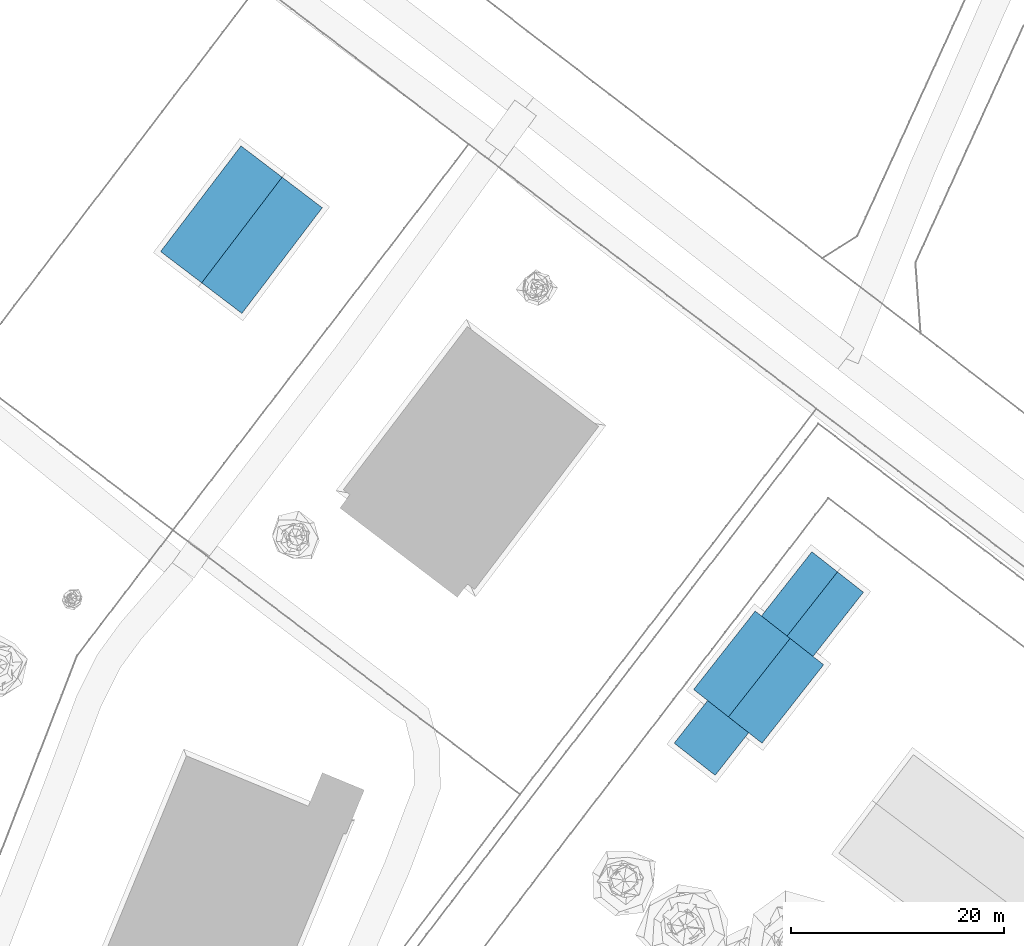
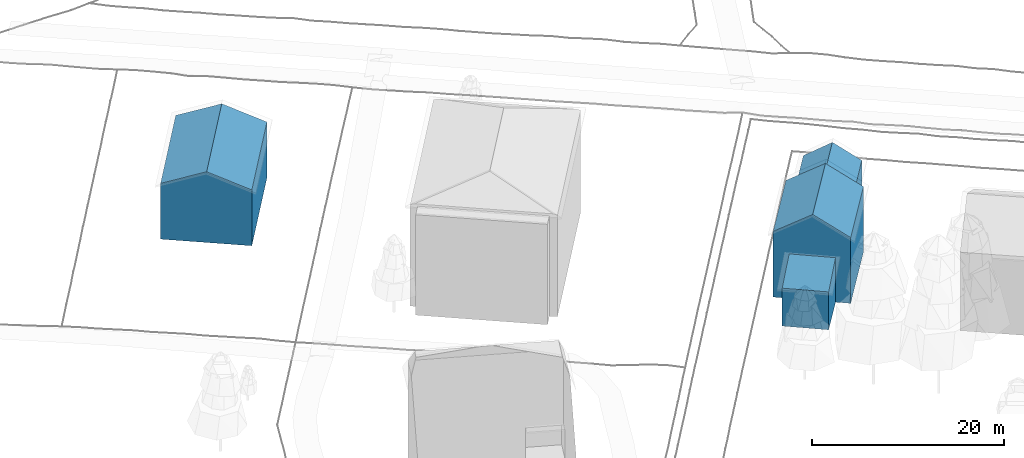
# Not in any storey, part 5 of 88: 2 walls.
"""IFC4 building model written with IfcOpenShell, lengths in metres."""

from ifc_helpers import new_model, si_unit, origin_with_axes, place, context, subcontext, project, spatial, faceted_brep, element, save


model = new_model("IFC4")

# Units and contexts
model_context = context("Model", 3, precision=1e-05, world=origin_with_axes())
body_context = subcontext(model_context, "Body", "Model", "MODEL_VIEW")
ifc_project = project(units=[si_unit("LENGTHUNIT", "METRE"), si_unit("AREAUNIT", "SQUARE_METRE"), si_unit("VOLUMEUNIT", "CUBIC_METRE"), si_unit("PLANEANGLEUNIT", "RADIAN")], contexts=[model_context])

# Sites, building
site_1_placement = place(None, origin_with_axes())
site_1 = spatial("IfcSite", under=ifc_project, at=site_1_placement, Name="CH907857693633", CompositionType="ELEMENT")
site_2_placement = place(None, origin_with_axes())
site_2 = spatial("IfcSite", under=site_1, at=site_2_placement, Name="Buildings", CompositionType="ELEMENT")
building_1_placement = place(None, origin_with_axes())
building_1 = spatial("IfcBuilding", under=site_2, at=building_1_placement, Name="Building_76F2A9BA", CompositionType="ELEMENT")

# Wall
wall_1_placement = place(building_1_placement, origin_with_axes())
element("IfcWall", 1, at=wall_1_placement, inside=building_1, Name="Building_76F2A9BA_Wall", PredefinedType="NOTDEFINED", context=body_context, shape_type="Brep", body=[
    faceted_brep([(67.765000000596, 189.747000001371, 14.7060877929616), (71.5450000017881, 186.870999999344, 12.8042877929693), (73.4349999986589, 193.276999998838, 13.7561877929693), (79.1030000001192, 196.804999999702, 12.8042877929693), (75.3229999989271, 199.682999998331, 14.7060877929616), (73.4349999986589, 193.276999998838, 13.7561877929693), (63.8990000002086, 192.688999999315, 12.8002877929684), (67.765000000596, 189.747000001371, 14.7060877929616), (69.6110000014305, 196.184999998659, 13.7521877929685), (69.6110000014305, 196.184999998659, 13.7521877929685), (71.5450000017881, 194.714999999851, 14.7060877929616), (75.3229999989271, 199.682999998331, 14.7060877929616), (75.3229999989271, 199.682999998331, 14.7060877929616), (71.4569999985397, 202.622999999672, 12.8002877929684), (69.6110000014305, 196.184999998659, 13.7521877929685), (79.1030000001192, 196.804999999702, 12.8042877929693), (75.3249999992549, 191.837000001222, 12.8042877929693), (75.3249999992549, 191.837000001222, 9.24448779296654), (75.3249999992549, 191.837000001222, 9.24448779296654), (79.1030000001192, 196.804999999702, 5.6867877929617), (79.1030000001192, 196.804999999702, 12.8042877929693), (79.1030000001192, 196.804999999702, 5.6867877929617), (75.3249999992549, 191.837000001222, 9.24448779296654), (75.3249999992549, 191.837000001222, 5.6867877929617), (71.5450000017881, 186.872999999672, 5.6867877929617), (75.3249999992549, 191.837000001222, 5.6867877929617), (75.3249999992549, 191.837000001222, 9.24448779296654), (71.5450000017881, 186.870999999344, 12.8042877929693), (75.3249999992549, 191.837000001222, 9.24448779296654), (75.3249999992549, 191.837000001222, 12.8042877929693), (75.3249999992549, 191.837000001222, 9.24448779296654), (71.5450000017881, 186.870999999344, 12.8042877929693), (71.5450000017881, 186.872999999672, 5.6867877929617), (75.3229999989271, 199.682999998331, 14.7060877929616), (79.1030000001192, 196.804999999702, 12.8042877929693), (77.2129999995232, 198.243000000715, 10.1964877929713), (71.4569999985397, 202.622999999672, 12.8002877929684), (73.3909999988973, 201.153000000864, 10.1964877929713), (71.4569999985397, 202.622999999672, 5.6867877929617), (73.3909999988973, 201.153000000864, 10.1964877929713), (71.4569999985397, 202.622999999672, 12.8002877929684), (75.3229999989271, 199.682999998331, 14.7060877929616), (73.3909999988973, 201.153000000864, 10.1964877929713), (77.2129999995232, 198.243000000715, 10.1964877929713), (76.2470000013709, 198.97899999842, 7.94058779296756), (63.8990000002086, 192.688999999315, 12.8002877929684), (67.6790000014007, 197.65700000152, 9.2425877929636), (63.9010000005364, 192.688999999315, 5.68478779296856), (67.6790000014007, 197.65700000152, 5.6867877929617), (63.9010000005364, 192.688999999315, 5.68478779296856), (67.6790000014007, 197.65700000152, 9.2425877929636), (67.6790000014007, 197.65700000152, 9.2425877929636), (63.8990000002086, 192.688999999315, 12.8002877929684), (67.6790000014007, 197.65700000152, 12.8002877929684), (71.4569999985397, 202.622999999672, 5.6867877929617), (67.6790000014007, 197.65700000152, 9.2425877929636), (71.4569999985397, 202.622999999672, 12.8002877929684), (67.6790000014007, 197.65700000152, 12.8002877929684), (71.4569999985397, 202.622999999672, 12.8002877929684), (67.6790000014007, 197.65700000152, 9.2425877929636), (67.6790000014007, 197.65700000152, 9.2425877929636), (71.4569999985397, 202.622999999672, 5.6867877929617), (67.6790000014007, 197.65700000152, 5.6867877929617), (71.5450000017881, 186.872999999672, 5.6867877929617), (71.5450000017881, 186.870999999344, 12.8042877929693), (69.6550000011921, 188.309000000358, 10.1964877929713), (67.765000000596, 189.747000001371, 14.7060877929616), (63.8990000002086, 192.688999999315, 12.8002877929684), (65.8330000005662, 191.219000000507, 10.1964877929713), (65.8330000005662, 191.219000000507, 10.1964877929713), (67.7230000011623, 189.780999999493, 5.68478779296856), (68.6889999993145, 189.045000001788, 7.94068779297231), (71.4789999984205, 198.684999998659, 5.6867877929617), (71.4569999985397, 202.622999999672, 5.6867877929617), (75.2809999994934, 199.712999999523, 5.6867877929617), (71.5009999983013, 194.747000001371, 5.6867877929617), (71.5229999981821, 190.809000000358, 5.6867877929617), (67.7230000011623, 189.780999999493, 5.68478779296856), (71.5450000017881, 186.872999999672, 5.6867877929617), (71.5229999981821, 190.809000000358, 5.6867877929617), (75.3249999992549, 191.837000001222, 5.6867877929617), (67.7230000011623, 189.780999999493, 5.68478779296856), (67.7010000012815, 193.717000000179, 5.6867877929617), (71.5009999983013, 194.747000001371, 5.6867877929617), (75.2809999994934, 199.712999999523, 5.6867877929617), (75.3029999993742, 195.77499999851, 5.6867877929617), (71.5009999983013, 194.747000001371, 5.6867877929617), (67.7010000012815, 193.717000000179, 5.6867877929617), (67.7230000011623, 189.780999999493, 5.68478779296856), (63.9010000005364, 192.688999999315, 5.68478779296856), (67.7010000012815, 193.717000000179, 5.6867877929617), (67.6790000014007, 197.65700000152, 5.6867877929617), (71.5009999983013, 194.747000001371, 5.6867877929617), (75.3249999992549, 191.837000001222, 5.6867877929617), (75.3029999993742, 195.77499999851, 5.6867877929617), (79.1030000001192, 196.804999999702, 5.6867877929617), (75.3029999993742, 195.77499999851, 5.6867877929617), (75.3249999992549, 191.837000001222, 5.6867877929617), (71.5009999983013, 194.747000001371, 5.6867877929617), (71.5229999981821, 190.809000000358, 5.6867877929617), (71.5009999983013, 194.747000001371, 5.6867877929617), (75.3249999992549, 191.837000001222, 5.6867877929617), (75.3029999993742, 195.77499999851, 5.6867877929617), (75.2809999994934, 199.712999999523, 5.6867877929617), (79.1030000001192, 196.804999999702, 5.6867877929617), (71.5009999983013, 194.747000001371, 5.6867877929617), (71.4789999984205, 198.684999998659, 5.6867877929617), (75.2809999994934, 199.712999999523, 5.6867877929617), (71.4789999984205, 198.684999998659, 5.6867877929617), (71.5009999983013, 194.747000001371, 5.6867877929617), (67.6790000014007, 197.65700000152, 5.6867877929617), (71.4569999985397, 202.622999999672, 5.6867877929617), (71.4789999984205, 198.684999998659, 5.6867877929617), (67.6790000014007, 197.65700000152, 5.6867877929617), (71.5229999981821, 190.809000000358, 5.6867877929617), (71.5450000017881, 186.872999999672, 5.6867877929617), (67.7230000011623, 189.780999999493, 5.68478779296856), (67.6790000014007, 197.65700000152, 5.6867877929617), (67.7010000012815, 193.717000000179, 5.6867877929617), (63.9010000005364, 192.688999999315, 5.68478779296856), (63.8990000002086, 192.688999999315, 12.8002877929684), (69.6110000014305, 196.184999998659, 13.7521877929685), (67.6790000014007, 197.65700000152, 12.8002877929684), (79.1030000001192, 196.804999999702, 12.8042877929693), (73.4349999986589, 193.276999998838, 13.7561877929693), (75.3249999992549, 191.837000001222, 12.8042877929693), (67.765000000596, 189.747000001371, 14.7060877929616), (73.4349999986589, 193.276999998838, 13.7561877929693), (71.5450000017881, 194.714999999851, 14.7060877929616), (73.4349999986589, 193.276999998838, 13.7561877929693), (75.3229999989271, 199.682999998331, 14.7060877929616), (71.5450000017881, 194.714999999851, 14.7060877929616), (69.6110000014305, 196.184999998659, 13.7521877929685), (67.765000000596, 189.747000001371, 14.7060877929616), (71.5450000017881, 194.714999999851, 14.7060877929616), (69.6110000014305, 196.184999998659, 13.7521877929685), (71.4569999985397, 202.622999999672, 12.8002877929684), (67.6790000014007, 197.65700000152, 12.8002877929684), (73.4349999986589, 193.276999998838, 13.7561877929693), (71.5450000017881, 186.870999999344, 12.8042877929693), (75.3249999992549, 191.837000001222, 12.8042877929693), (71.4569999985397, 202.622999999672, 5.6867877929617), (73.3909999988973, 201.153000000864, 10.1964877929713), (75.2809999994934, 199.712999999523, 5.6867877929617), (63.8990000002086, 192.688999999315, 12.8002877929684), (63.9010000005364, 192.688999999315, 5.68478779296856), (65.8330000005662, 191.219000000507, 10.1964877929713), (67.765000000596, 189.747000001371, 14.7060877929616), (65.8330000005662, 191.219000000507, 10.1964877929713), (69.6550000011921, 188.309000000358, 10.1964877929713), (79.1030000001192, 196.804999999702, 12.8042877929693), (79.1030000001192, 196.804999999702, 5.6867877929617), (77.2129999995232, 198.243000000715, 10.1964877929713), (73.3909999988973, 201.153000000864, 10.1964877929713), (75.3229999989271, 199.682999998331, 14.7060877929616), (77.2129999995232, 198.243000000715, 10.1964877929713), (71.5450000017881, 186.870999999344, 12.8042877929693), (67.765000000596, 189.747000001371, 14.7060877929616), (69.6550000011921, 188.309000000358, 10.1964877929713), (71.5450000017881, 186.872999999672, 5.6867877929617), (69.6550000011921, 188.309000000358, 10.1964877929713), (68.6889999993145, 189.045000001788, 7.94068779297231), (79.1030000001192, 196.804999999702, 5.6867877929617), (75.2809999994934, 199.712999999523, 5.6867877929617), (76.2470000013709, 198.97899999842, 7.94058779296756), (65.8330000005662, 191.219000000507, 10.1964877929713), (63.9010000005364, 192.688999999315, 5.68478779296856), (67.7230000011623, 189.780999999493, 5.68478779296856), (77.2129999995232, 198.243000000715, 10.1964877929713), (79.1030000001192, 196.804999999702, 5.6867877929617), (76.2470000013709, 198.97899999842, 7.94058779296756), (75.2809999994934, 199.712999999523, 5.6867877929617), (73.3909999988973, 201.153000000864, 10.1964877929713), (76.2470000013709, 198.97899999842, 7.94058779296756), (67.7230000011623, 189.780999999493, 5.68478779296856), (71.5450000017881, 186.872999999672, 5.6867877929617), (68.6889999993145, 189.045000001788, 7.94068779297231), (69.6550000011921, 188.309000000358, 10.1964877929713), (65.8330000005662, 191.219000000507, 10.1964877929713), (68.6889999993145, 189.045000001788, 7.94068779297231)], [[[0, 1, 2]], [[3, 4, 5]], [[6, 7, 8]], [[9, 10, 11]], [[12, 13, 14]], [[15, 16, 17]], [[18, 19, 20]], [[21, 22, 23]], [[24, 25, 26]], [[27, 28, 29]], [[30, 31, 32]], [[33, 34, 35]], [[36, 37, 38]], [[39, 40, 41]], [[42, 43, 44]], [[45, 46, 47]], [[48, 49, 50]], [[51, 52, 53]], [[54, 55, 56]], [[57, 58, 59]], [[60, 61, 62]], [[63, 64, 65]], [[66, 67, 68]], [[69, 70, 71]], [[72, 73, 74]], [[75, 76, 77]], [[78, 79, 80]], [[81, 82, 83]], [[84, 85, 86]], [[87, 88, 89]], [[90, 91, 92]], [[93, 94, 95]], [[96, 97, 98]], [[99, 100, 101]], [[102, 103, 104]], [[105, 106, 107]], [[108, 109, 110]], [[111, 112, 113]], [[114, 115, 116]], [[117, 118, 119]], [[120, 121, 122]], [[123, 124, 125]], [[126, 127, 128]], [[129, 130, 131]], [[132, 133, 134]], [[135, 136, 137]], [[138, 139, 140]], [[141, 142, 143]], [[144, 145, 146]], [[147, 148, 149]], [[150, 151, 152]], [[153, 154, 155]], [[156, 157, 158]], [[159, 160, 161]], [[162, 163, 164]], [[165, 166, 167]], [[168, 169, 170]], [[171, 172, 173]], [[174, 175, 176]], [[177, 178, 179]]]),
])

# Building
building_2_placement = place(None, origin_with_axes())
building_2 = spatial("IfcBuilding", under=site_2, at=building_2_placement, Name="Building_71E904FA", CompositionType="ELEMENT")

# Wall
wall_2_placement = place(building_2_placement, origin_with_axes())
element("IfcWall", 2, at=wall_2_placement, inside=building_2, Name="Building_71E904FA_Wall", PredefinedType="NOTDEFINED", context=body_context, shape_type="Brep", body=[
    faceted_brep([(127.532999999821, 162.576000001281, 14.0160877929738), (122.795000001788, 156.541999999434, 14.0160877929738), (125.236999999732, 154.625999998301, 12.0141877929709), (127.532999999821, 162.576000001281, 14.0160877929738), (125.236999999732, 154.625999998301, 12.0141877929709), (129.973000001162, 160.660000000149, 12.0141877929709), (120.386999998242, 158.43200000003, 12.0181877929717), (122.795000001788, 156.541999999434, 14.0160877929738), (127.532999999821, 162.576000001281, 14.0160877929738), (120.386999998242, 158.43200000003, 12.0181877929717), (127.532999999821, 162.576000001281, 14.0160877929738), (125.125, 164.46799999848, 12.0181877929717), (129.973000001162, 160.660000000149, 5.72068779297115), (129.973000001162, 160.660000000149, 12.0141877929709), (127.607000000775, 157.642000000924, 8.86648779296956), (125.236999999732, 154.625999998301, 12.0141877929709), (125.236999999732, 154.625999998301, 5.71868779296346), (127.607000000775, 157.642000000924, 8.86648779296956), (125.125, 164.46799999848, 12.0181877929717), (129.973000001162, 160.660000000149, 12.0141877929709), (125.125, 164.46799999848, 5.72068779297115), (129.973000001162, 160.660000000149, 12.0141877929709), (129.973000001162, 160.660000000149, 5.72068779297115), (125.125, 164.46799999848, 5.72068779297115), (129.973000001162, 160.660000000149, 12.0141877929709), (125.125, 164.46799999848, 12.0181877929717), (127.532999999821, 162.576000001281, 14.0160877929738), (125.125, 164.46799999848, 5.72068779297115), (120.386999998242, 158.43200000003, 5.72068779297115), (122.754999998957, 161.449999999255, 8.8684877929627), (120.386999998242, 158.43200000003, 12.0181877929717), (125.125, 164.46799999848, 12.0181877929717), (122.754999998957, 161.449999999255, 8.8684877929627), (119.181000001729, 147.456000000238, 5.72068779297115), (115.328999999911, 150.480000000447, 5.72068779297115), (123.48900000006, 152.397999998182, 5.72068779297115), (116.903000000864, 155.206000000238, 5.72068779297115), (118.640999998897, 156.208000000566, 5.72068779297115), (114.006999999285, 151.517999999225, 5.72068779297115), (116.035000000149, 143.449999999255, 5.72068779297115), (115.328999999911, 150.480000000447, 5.72068779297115), (119.181000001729, 147.456000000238, 5.72068779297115), (120.386999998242, 158.43200000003, 5.72068779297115), (125.236999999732, 154.625999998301, 5.71868779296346), (118.640999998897, 156.208000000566, 5.72068779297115), (123.48900000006, 152.397999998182, 5.72068779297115), (126.230999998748, 153.846000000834, 5.72068779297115), (123.335000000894, 150.157999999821, 5.72068779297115), (125.181000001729, 159.546000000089, 5.72068779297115), (125.236999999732, 154.625999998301, 5.71868779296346), (120.386999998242, 158.43200000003, 5.72068779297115), (125.236999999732, 154.625999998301, 5.71868779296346), (125.181000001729, 159.546000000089, 5.72068779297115), (129.973000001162, 160.660000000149, 5.72068779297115), (118.640999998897, 156.208000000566, 5.72068779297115), (123.48900000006, 152.397999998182, 5.72068779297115), (115.328999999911, 150.480000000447, 5.72068779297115), (123.335000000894, 150.157999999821, 5.72068779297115), (120.438999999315, 146.469999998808, 5.72068779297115), (123.48900000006, 152.397999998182, 5.72068779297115), (125.181000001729, 159.546000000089, 5.72068779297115), (125.125, 164.46799999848, 5.72068779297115), (129.973000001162, 160.660000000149, 5.72068779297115), (115.328999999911, 150.480000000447, 5.72068779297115), (116.035000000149, 143.449999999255, 5.72068779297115), (112.182999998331, 146.473999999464, 5.7207877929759), (118.640999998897, 156.208000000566, 5.72068779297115), (116.903000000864, 155.206000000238, 5.72068779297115), (119.796999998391, 158.894000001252, 5.72068779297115), (119.796999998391, 158.894000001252, 5.72068779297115), (120.386999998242, 158.43200000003, 5.72068779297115), (118.640999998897, 156.208000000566, 5.72068779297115), (115.328999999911, 150.480000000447, 5.72068779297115), (114.006999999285, 151.517999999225, 5.72068779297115), (118.640999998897, 156.208000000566, 5.72068779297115), (120.438999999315, 146.469999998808, 5.72068779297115), (119.181000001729, 147.456000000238, 5.72068779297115), (123.48900000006, 152.397999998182, 5.72068779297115), (125.125, 164.46799999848, 5.72068779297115), (125.181000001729, 159.546000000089, 5.72068779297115), (120.386999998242, 158.43200000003, 5.72068779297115), (125.236999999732, 154.625999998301, 5.71868779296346), (126.230999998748, 153.846000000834, 5.72068779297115), (123.48900000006, 152.397999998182, 5.72068779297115), (123.48900000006, 152.397999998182, 5.72068779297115), (118.640999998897, 156.208000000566, 5.72068779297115), (125.236999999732, 154.625999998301, 5.71868779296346), (117.289000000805, 148.942000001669, 16.6678877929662), (120.438999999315, 146.469999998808, 14.1120877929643), (121.758999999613, 151.394000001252, 15.3919877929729), (126.230999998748, 153.846000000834, 14.114087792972), (123.081000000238, 156.320000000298, 16.6678877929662), (121.758999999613, 151.394000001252, 15.3919877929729), (118.545000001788, 153.91800000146, 15.3859877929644), (120.184999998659, 152.629999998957, 16.6678877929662), (123.081000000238, 156.320000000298, 16.6678877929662), (123.081000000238, 156.320000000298, 16.6678877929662), (119.796999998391, 158.894000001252, 14.1020877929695), (118.545000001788, 153.91800000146, 15.3859877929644), (114.006999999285, 151.517999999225, 14.1020877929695), (117.289000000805, 148.942000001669, 16.6678877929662), (118.545000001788, 153.91800000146, 15.3859877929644), (118.545000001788, 153.91800000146, 15.3859877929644), (116.903000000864, 155.206000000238, 14.1020877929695), (114.006999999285, 151.517999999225, 14.1020877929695), (120.438999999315, 146.469999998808, 5.72068779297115), (123.335000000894, 150.157999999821, 5.72068779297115), (123.335000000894, 150.157999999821, 9.91638779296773), (120.438999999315, 146.469999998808, 14.1120877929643), (123.335000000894, 150.157999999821, 9.91638779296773), (123.335000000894, 150.157999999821, 14.114087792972), (123.335000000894, 150.157999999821, 9.91638779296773), (120.438999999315, 146.469999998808, 14.1120877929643), (120.438999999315, 146.469999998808, 5.72068779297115), (126.230999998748, 153.846000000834, 14.114087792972), (123.335000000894, 150.157999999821, 14.114087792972), (123.335000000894, 150.157999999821, 9.91638779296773), (123.335000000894, 150.157999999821, 9.91638779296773), (126.230999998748, 153.846000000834, 5.72068779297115), (126.230999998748, 153.846000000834, 14.114087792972), (126.230999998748, 153.846000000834, 5.72068779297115), (123.335000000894, 150.157999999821, 9.91638779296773), (123.335000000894, 150.157999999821, 5.72068779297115), (119.796999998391, 158.894000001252, 14.1020877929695), (123.081000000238, 156.320000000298, 16.6678877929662), (122.795000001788, 156.541999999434, 14.0160877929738), (119.796999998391, 158.894000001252, 14.1020877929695), (122.795000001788, 156.541999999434, 14.0160877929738), (120.386999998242, 158.43200000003, 12.0181877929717), (119.796999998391, 158.894000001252, 14.1020877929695), (120.386999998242, 158.43200000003, 12.0181877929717), (119.796999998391, 158.894000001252, 5.72068779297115), (120.386999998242, 158.43200000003, 12.0181877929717), (120.386999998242, 158.43200000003, 5.72068779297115), (119.796999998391, 158.894000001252, 5.72068779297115), (123.081000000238, 156.320000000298, 16.6678877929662), (126.230999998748, 153.846000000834, 14.114087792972), (122.795000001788, 156.541999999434, 14.0160877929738), (125.236999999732, 154.625999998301, 12.0141877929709), (126.230999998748, 153.846000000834, 5.72068779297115), (125.236999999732, 154.625999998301, 5.71868779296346), (126.230999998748, 153.846000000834, 5.72068779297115), (125.236999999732, 154.625999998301, 12.0141877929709), (126.230999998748, 153.846000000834, 14.114087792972), (126.230999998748, 153.846000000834, 14.114087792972), (125.236999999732, 154.625999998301, 12.0141877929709), (122.795000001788, 156.541999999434, 14.0160877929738), (119.796999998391, 158.894000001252, 5.72068779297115), (116.903000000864, 155.206000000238, 9.91038779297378), (119.796999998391, 158.894000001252, 14.1020877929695), (116.903000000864, 155.206000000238, 9.91038779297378), (119.796999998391, 158.894000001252, 5.72068779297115), (116.903000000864, 155.206000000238, 5.72068779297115), (116.903000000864, 155.206000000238, 14.1020877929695), (119.796999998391, 158.894000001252, 14.1020877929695), (116.903000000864, 155.206000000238, 9.91038779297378), (116.903000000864, 155.206000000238, 5.72068779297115), (114.006999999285, 151.517999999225, 5.72068779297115), (116.903000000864, 155.206000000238, 9.91038779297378), (114.006999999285, 151.517999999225, 14.1020877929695), (116.903000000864, 155.206000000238, 9.91038779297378), (114.006999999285, 151.517999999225, 5.72068779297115), (116.903000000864, 155.206000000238, 9.91038779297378), (114.006999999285, 151.517999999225, 14.1020877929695), (116.903000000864, 155.206000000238, 14.1020877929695), (120.438999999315, 146.469999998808, 14.1120877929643), (117.289000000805, 148.942000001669, 16.6678877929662), (119.181000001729, 147.456000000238, 11.390287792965), (120.438999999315, 146.469999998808, 5.72068779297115), (119.181000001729, 147.456000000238, 11.390287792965), (119.181000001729, 147.456000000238, 5.72068779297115), (119.181000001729, 147.456000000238, 11.390287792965), (120.438999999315, 146.469999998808, 5.72068779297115), (120.438999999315, 146.469999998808, 14.1120877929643), (117.289000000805, 148.942000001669, 16.6678877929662), (114.006999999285, 151.517999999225, 14.1020877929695), (115.328999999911, 150.480000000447, 11.390287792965), (117.289000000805, 148.942000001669, 16.6678877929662), (115.328999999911, 150.480000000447, 11.390287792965), (119.181000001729, 147.456000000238, 11.390287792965), (115.328999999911, 150.480000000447, 11.390287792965), (114.006999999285, 151.517999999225, 14.1020877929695), (114.006999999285, 151.517999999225, 5.72068779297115), (115.328999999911, 150.480000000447, 5.72068779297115), (115.328999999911, 150.480000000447, 11.390287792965), (114.006999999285, 151.517999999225, 5.72068779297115), (116.035000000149, 143.449999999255, 10.5563877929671), (119.181000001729, 147.456000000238, 11.390287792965), (115.328999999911, 150.480000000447, 11.390287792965), (116.035000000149, 143.449999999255, 10.5563877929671), (115.328999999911, 150.480000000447, 11.390287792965), (112.182999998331, 146.473999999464, 10.5563877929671), (112.182999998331, 146.473999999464, 10.5563877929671), (112.182999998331, 146.473999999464, 5.7207877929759), (116.035000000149, 143.449999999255, 10.5563877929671), (116.035000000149, 143.449999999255, 5.72068779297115), (116.035000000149, 143.449999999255, 10.5563877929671), (112.182999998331, 146.473999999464, 5.7207877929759), (116.035000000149, 143.449999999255, 10.5563877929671), (119.181000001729, 147.456000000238, 5.72068779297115), (119.181000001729, 147.456000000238, 11.390287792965), (119.181000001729, 147.456000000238, 5.72068779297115), (116.035000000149, 143.449999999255, 10.5563877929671), (116.035000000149, 143.449999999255, 5.72068779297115), (115.328999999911, 150.480000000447, 5.72068779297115), (112.182999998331, 146.473999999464, 10.5563877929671), (115.328999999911, 150.480000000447, 11.390287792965), (112.182999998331, 146.473999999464, 10.5563877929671), (115.328999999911, 150.480000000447, 5.72068779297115), (112.182999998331, 146.473999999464, 5.7207877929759), (126.230999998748, 153.846000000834, 14.114087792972), (121.758999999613, 151.394000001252, 15.3919877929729), (123.335000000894, 150.157999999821, 14.114087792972), (117.289000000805, 148.942000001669, 16.6678877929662), (121.758999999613, 151.394000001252, 15.3919877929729), (120.184999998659, 152.629999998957, 16.6678877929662), (120.386999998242, 158.43200000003, 5.72068779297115), (120.386999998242, 158.43200000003, 12.0181877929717), (122.754999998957, 161.449999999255, 8.8684877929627), (125.125, 164.46799999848, 12.0181877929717), (125.125, 164.46799999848, 5.72068779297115), (122.754999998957, 161.449999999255, 8.8684877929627), (129.973000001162, 160.660000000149, 12.0141877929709), (125.236999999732, 154.625999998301, 12.0141877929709), (127.607000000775, 157.642000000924, 8.86648779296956), (125.236999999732, 154.625999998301, 5.71868779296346), (129.973000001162, 160.660000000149, 5.72068779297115), (127.607000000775, 157.642000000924, 8.86648779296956), (121.758999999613, 151.394000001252, 15.3919877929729), (123.081000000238, 156.320000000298, 16.6678877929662), (120.184999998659, 152.629999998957, 16.6678877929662), (118.545000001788, 153.91800000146, 15.3859877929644), (117.289000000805, 148.942000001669, 16.6678877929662), (120.184999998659, 152.629999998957, 16.6678877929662), (121.758999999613, 151.394000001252, 15.3919877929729), (120.438999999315, 146.469999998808, 14.1120877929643), (123.335000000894, 150.157999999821, 14.114087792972), (118.545000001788, 153.91800000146, 15.3859877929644), (119.796999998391, 158.894000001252, 14.1020877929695), (116.903000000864, 155.206000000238, 14.1020877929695)], [[[0, 1, 2]], [[3, 4, 5]], [[6, 7, 8]], [[9, 10, 11]], [[12, 13, 14]], [[15, 16, 17]], [[18, 19, 20]], [[21, 22, 23]], [[24, 25, 26]], [[27, 28, 29]], [[30, 31, 32]], [[33, 34, 35]], [[36, 37, 38]], [[39, 40, 41]], [[42, 43, 44]], [[45, 46, 47]], [[48, 49, 50]], [[51, 52, 53]], [[54, 55, 56]], [[57, 58, 59]], [[60, 61, 62]], [[63, 64, 65]], [[66, 67, 68]], [[69, 70, 71]], [[72, 73, 74]], [[75, 76, 77]], [[78, 79, 80]], [[81, 82, 83]], [[84, 85, 86]], [[87, 88, 89]], [[90, 91, 92]], [[93, 94, 95]], [[96, 97, 98]], [[99, 100, 101]], [[102, 103, 104]], [[105, 106, 107]], [[108, 109, 110]], [[111, 112, 113]], [[114, 115, 116]], [[117, 118, 119]], [[120, 121, 122]], [[123, 124, 125]], [[126, 127, 128]], [[129, 130, 131]], [[132, 133, 134]], [[135, 136, 137]], [[138, 139, 140]], [[141, 142, 143]], [[144, 145, 146]], [[147, 148, 149]], [[150, 151, 152]], [[153, 154, 155]], [[156, 157, 158]], [[159, 160, 161]], [[162, 163, 164]], [[165, 166, 167]], [[168, 169, 170]], [[171, 172, 173]], [[174, 175, 176]], [[177, 178, 179]], [[180, 181, 182]], [[183, 184, 185]], [[186, 187, 188]], [[189, 190, 191]], [[192, 193, 194]], [[195, 196, 197]], [[198, 199, 200]], [[201, 202, 203]], [[204, 205, 206]], [[207, 208, 209]], [[210, 211, 212]], [[213, 214, 215]], [[216, 217, 218]], [[219, 220, 221]], [[222, 223, 224]], [[225, 226, 227]], [[228, 229, 230]], [[231, 232, 233]], [[234, 235, 236]], [[237, 238, 239]]]),
])

save(model, "model.ifc")
